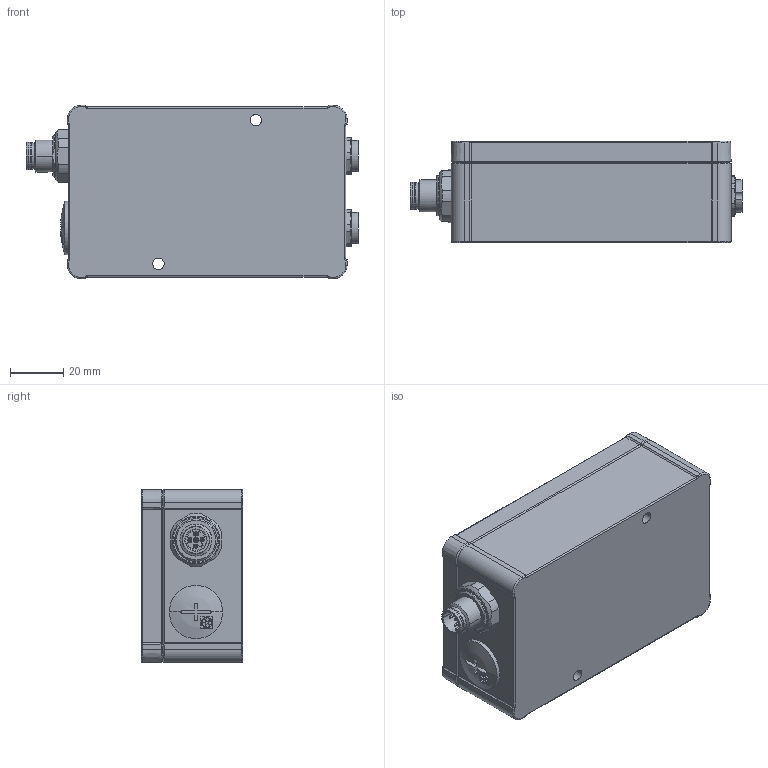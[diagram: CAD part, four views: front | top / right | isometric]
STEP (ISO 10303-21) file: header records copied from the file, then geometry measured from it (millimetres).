
FILE_DESCRIPTION((''),'2;1');
FILE_NAME('0000205206_SW0001','2020-03-02T11:25:45',('11000775'),(''),'CREO PARAMETRIC BY PTC INC, 2019030','CREO PARAMETRIC BY PTC INC, 2019030','');
FILE_SCHEMA(('AUTOMOTIVE_DESIGN { 1 0 10303 214 1 1 1 1 }'));
Length unit declared in the file: millimetre
Products named in the file (1): 0000205206_SW0001
Bounding box: 124.58 x 38 x 65 mm (x, y, z)
Volume: 250884.3 mm3; surface area: 30853.2 mm2
Topology: 1 solids, 1 shells, 782 faces, 1960 edges, 1208 vertices
Faces by surface type: plane 287, cylinder 213, cone 204, torus 75, sphere 3
Entity records: 39046 total; most frequent: CARTESIAN_POINT 6857, DIRECTION 4098, ORIENTED_EDGE 3880, PRESENTATION_STYLE_ASSIGNMENT 2727, STYLED_ITEM 1945, CURVE_STYLE 1944, EDGE_CURVE 1940, AXIS2_PLACEMENT_3D 1641
